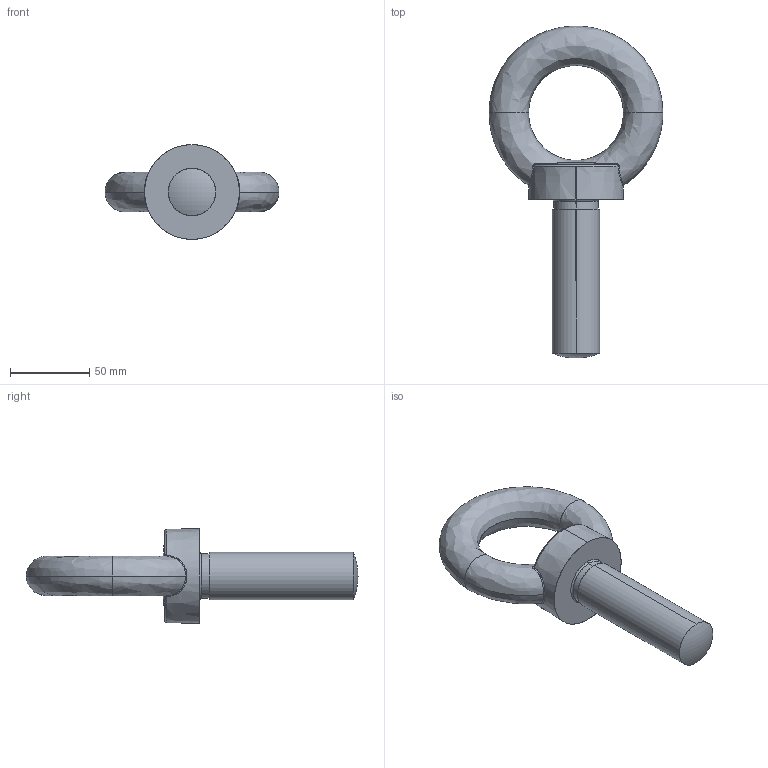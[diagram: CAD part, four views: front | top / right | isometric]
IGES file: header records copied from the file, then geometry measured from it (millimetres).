
Start section: SolidWorks IGES FILE using analytic representation for surfaces
Global section: file name: \\Ls-wvld1d\share\シブタニ\3D設計\ネジ・アイボルト\EB-901(S)-30100\EB-901(S)-30100.IGS,41HSolidWorks; native system: 2003 by SolidWorks Corporation; preprocessor: Version 5.3; author: user; date: 130703.185819; units: millimetre
Bounding box: 110 x 209.97 x 60 mm (x, y, z)
Surface area: 34949.8 mm2 (no closed solid volume)
Topology: 0 solids, 0 shells, 31 faces, 669 edges, 661 vertices
Faces by surface type: bspline 21, revolution 10
